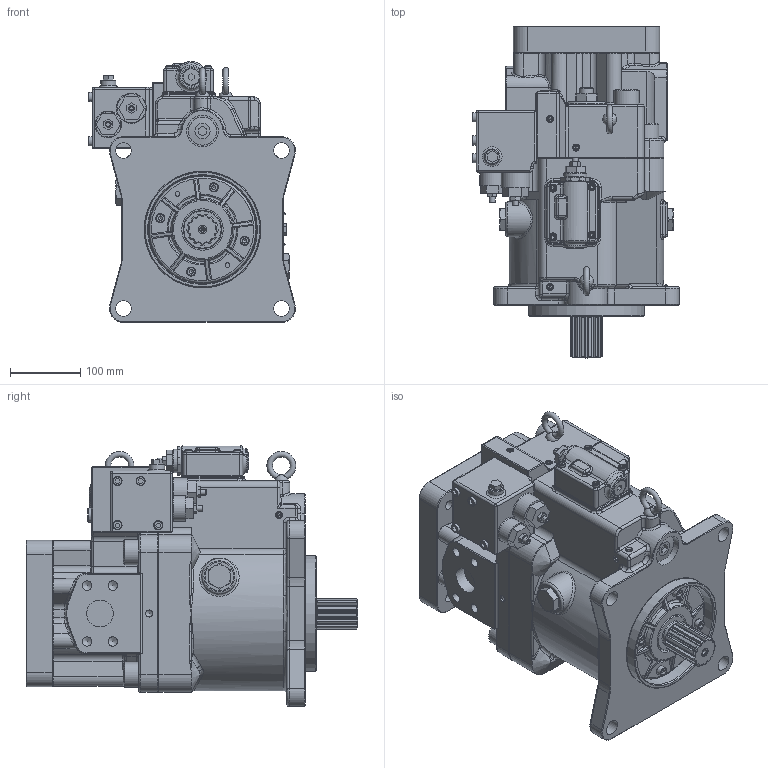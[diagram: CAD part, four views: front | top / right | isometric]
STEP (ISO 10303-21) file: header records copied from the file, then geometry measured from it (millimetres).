
FILE_DESCRIPTION((''),'2;1');
FILE_NAME('I:\PM\PUMP\K3VL200\K3VL200B-1DRSS-P01-H3\K3VL200B-1DRSS-P01-H3.stp','2007-03-07T16:28:18',('ACUSER'),(''),'Autodesk Inventor 11','Autodesk Inventor 11','');
FILE_SCHEMA(('AUTOMOTIVE_DESIGN { 1 0 10303 214 1 1 1 1 }'));
Length unit declared in the file: millimetre
Products named in the file (1): K3VL200B-1DRSS-P01-H3
Bounding box: 294.2 x 472 x 371.21 mm (x, y, z)
Volume: 19960135.9 mm3; surface area: 813540.8 mm2
Topology: 24 solids, 41 shells, 2166 faces, 5187 edges, 3155 vertices
Faces by surface type: plane 881, bspline 533, cylinder 420, cone 256, torus 64, sphere 12
Full cylindrical faces by diameter (mm): 6 x4, 7.5 x2, 8 x8, 10 x4, 12 x8, 13 x8, 18 x8, 20 x1, 22 x1, 24 x2, 26 x1, 30 x1, 33 x2, 36 x6, 36.7 x1, 40 x1, 41 x1, 50 x1, 55 x1, 59 x1, 125 x1, 133.2 x1, 152 x1, 165.1 x1
Entity records: 97571 total; most frequent: CARTESIAN_POINT 52025, ORIENTED_EDGE 9342, DIRECTION 9065, EDGE_CURVE 4671, AXIS2_PLACEMENT_3D 3484, VERTEX_POINT 2978, EDGE_LOOP 2621, FACE_OUTER_BOUND 2166
